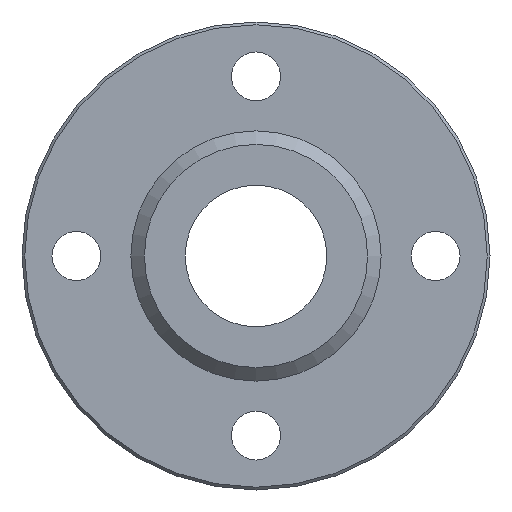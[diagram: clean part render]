
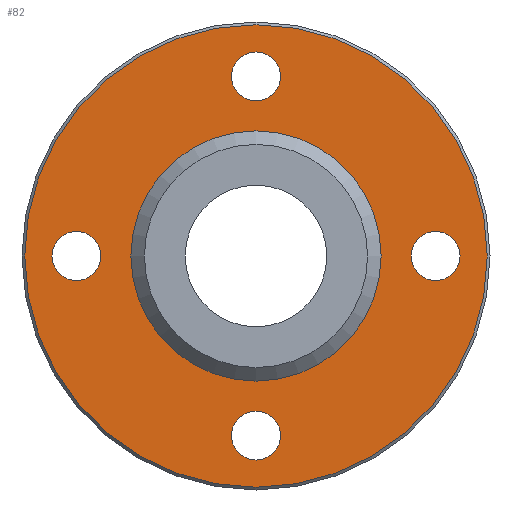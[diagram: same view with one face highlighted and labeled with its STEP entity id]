
A CAD part, left-side view. The second image highlights one B-rep face of the part: STEP entity #82.
In plain terms, the highlighted planar face has unit normal (-1, 0, 0).
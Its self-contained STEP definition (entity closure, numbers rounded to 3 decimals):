
#82=ADVANCED_FACE('',(#122,#123,#124,#125,#126,#127),#128,.F.);
#122=FACE_BOUND('',#193,.T.);
#123=FACE_BOUND('',#194,.T.);
#124=FACE_BOUND('',#195,.T.);
#125=FACE_BOUND('',#196,.T.);
#126=FACE_OUTER_BOUND('',#197,.T.);
#127=FACE_BOUND('',#198,.T.);
#128=PLANE('',#199);
#193=EDGE_LOOP('',(#278));
#194=EDGE_LOOP('',(#279));
#195=EDGE_LOOP('',(#280));
#196=EDGE_LOOP('',(#281));
#197=EDGE_LOOP('',(#282));
#198=EDGE_LOOP('',(#283));
#199=AXIS2_PLACEMENT_3D('',#284,#285,#286);
#278=ORIENTED_EDGE('',*,*,#365,.T.);
#279=ORIENTED_EDGE('',*,*,#366,.T.);
#280=ORIENTED_EDGE('',*,*,#367,.T.);
#281=ORIENTED_EDGE('',*,*,#368,.T.);
#282=ORIENTED_EDGE('',*,*,#364,.F.);
#283=ORIENTED_EDGE('',*,*,#352,.T.);
#284=CARTESIAN_POINT('',(-9.0,11.5,0.0));
#285=DIRECTION('',(1.0,0.0,0.0));
#286=DIRECTION('',(0.0,0.0,-1.0));
#352=EDGE_CURVE('',#377,#377,#378,.T.);
#364=EDGE_CURVE('',#401,#401,#402,.T.);
#365=EDGE_CURVE('',#403,#403,#404,.T.);
#366=EDGE_CURVE('',#405,#405,#406,.T.);
#367=EDGE_CURVE('',#407,#407,#408,.T.);
#368=EDGE_CURVE('',#409,#409,#410,.T.);
#377=VERTEX_POINT('',#427);
#378=CIRCLE('',#428,11.5);
#401=VERTEX_POINT('',#451);
#402=CIRCLE('',#452,21.246);
#403=VERTEX_POINT('',#453);
#404=CIRCLE('',#454,2.25);
#405=VERTEX_POINT('',#455);
#406=CIRCLE('',#456,2.25);
#407=VERTEX_POINT('',#457);
#408=CIRCLE('',#458,2.25);
#409=VERTEX_POINT('',#459);
#410=CIRCLE('',#460,2.25);
#427=CARTESIAN_POINT('',(-9.0,0.0,-11.5));
#428=AXIS2_PLACEMENT_3D('',#477,#478,#479);
#451=CARTESIAN_POINT('',(-9.0,0.0,-21.246));
#452=AXIS2_PLACEMENT_3D('',#513,#514,#515);
#453=CARTESIAN_POINT('',(-9.0,-16.5,-2.25));
#454=AXIS2_PLACEMENT_3D('',#516,#517,#518);
#455=CARTESIAN_POINT('',(-9.0,16.5,-2.25));
#456=AXIS2_PLACEMENT_3D('',#519,#520,#521);
#457=CARTESIAN_POINT('',(-9.0,0.0,-18.75));
#458=AXIS2_PLACEMENT_3D('',#522,#523,#524);
#459=CARTESIAN_POINT('',(-9.0,0.0,14.25));
#460=AXIS2_PLACEMENT_3D('',#525,#526,#527);
#477=CARTESIAN_POINT('',(-9.0,0.0,0.0));
#478=DIRECTION('',(1.0,0.0,0.0));
#479=DIRECTION('',(0.0,0.0,-1.0));
#513=CARTESIAN_POINT('',(-9.0,0.0,0.0));
#514=DIRECTION('',(1.0,0.0,0.0));
#515=DIRECTION('',(0.0,0.0,-1.0));
#516=CARTESIAN_POINT('',(-9.0,-16.5,0.0));
#517=DIRECTION('',(1.0,0.0,0.0));
#518=DIRECTION('',(0.0,0.0,-1.0));
#519=CARTESIAN_POINT('',(-9.0,16.5,0.0));
#520=DIRECTION('',(1.0,0.0,0.0));
#521=DIRECTION('',(0.0,0.0,-1.0));
#522=CARTESIAN_POINT('',(-9.0,0.0,-16.5));
#523=DIRECTION('',(1.0,0.0,0.0));
#524=DIRECTION('',(0.0,0.0,-1.0));
#525=CARTESIAN_POINT('',(-9.0,0.0,16.5));
#526=DIRECTION('',(1.0,0.0,0.0));
#527=DIRECTION('',(0.0,0.0,-1.0));
